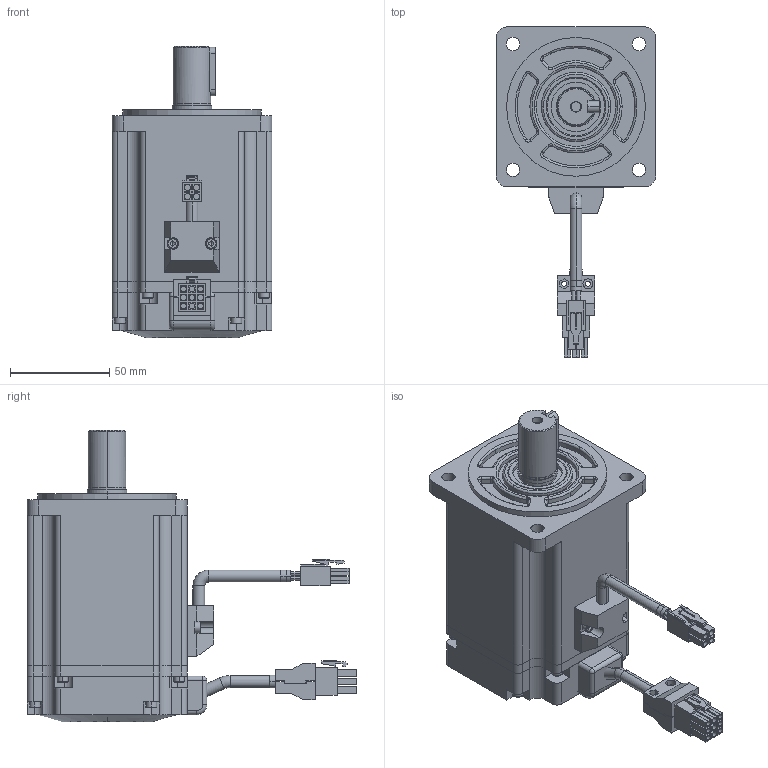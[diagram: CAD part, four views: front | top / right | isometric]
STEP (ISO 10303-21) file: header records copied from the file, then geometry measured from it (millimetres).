
FILE_DESCRIPTION (( 'STEP AP203' ), '1' );
FILE_NAME ('80SS100.STEP', '2023-05-15T02:46:28', ( '' ), ( '' ), 'SwSTEP 2.0', 'SolidWorks 2020', '' );
FILE_SCHEMA (( 'CONFIG_CONTROL_DESIGN' ));
Length unit declared in the file: millimetre
Products named in the file (9): 葩璃 60X6ST-C01330^80SS100; hexagon socket head cap screws gb_GB_FASTENER_SCREWS_HSHCS M3X5-N; 葩璃 60X6ST-C01330 萇儂盄^80SS100; 錨璃12^80SS100; 錨璃13^80SS100; 葩璃 60X6ST-C01330 晤鎢盄^80SS100; 錨璃1^80SS100; 80SS100; 錨璃5^80SS100
Assembly tree (17 placements, depth 2):
  80SS100
    葩璃 60X6ST-C01330^80SS100
    錨璃5^80SS100
    錨璃12^80SS100
    錨璃13^80SS100
    錨璃1^80SS100
    葩璃 60X6ST-C01330 萇儂盄^80SS100
    葩璃 60X6ST-C01330 晤鎢盄^80SS100
    hexagon socket head cap screws gb_GB_FASTENER_SCREWS_HSHCS M3X5-N  x10
Bounding box: 80.7 x 166.43 x 147 mm (x, y, z)
Volume: 678032.3 mm3; surface area: 91860.1 mm2
Topology: 19 solids, 19 shells, 832 faces, 2038 edges, 1287 vertices
Faces by surface type: plane 474, cylinder 250, torus 60, cone 46, sphere 2
Entity records: 19570 total; most frequent: DIRECTION 3301, CARTESIAN_POINT 3197, ORIENTED_EDGE 3060, EDGE_CURVE 1530, AXIS2_PLACEMENT_3D 1152, LINE 997, VECTOR 997, VERTEX_POINT 990
